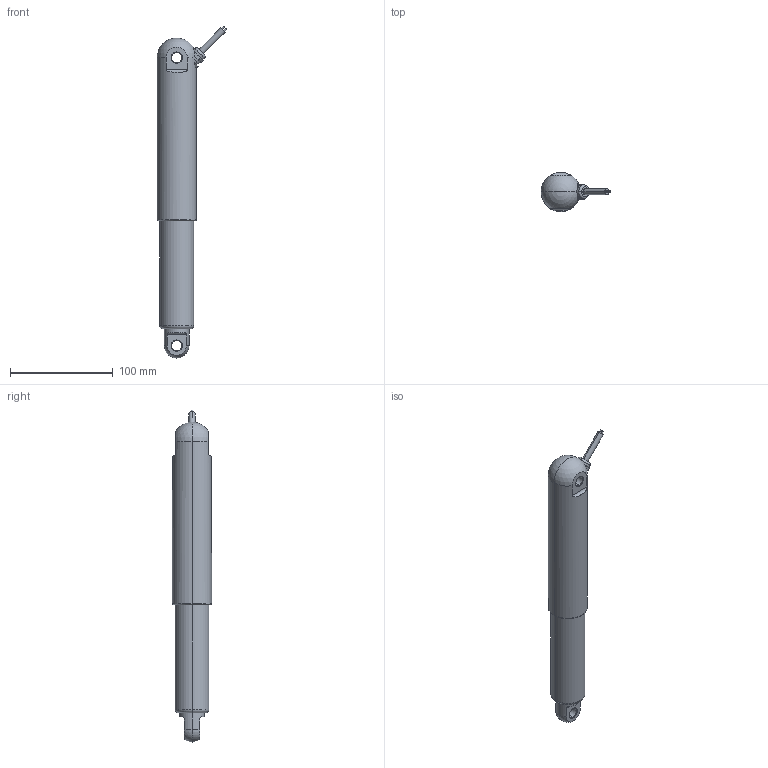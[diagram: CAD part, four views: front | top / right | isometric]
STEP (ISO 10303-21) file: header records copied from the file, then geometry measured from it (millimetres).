
FILE_DESCRIPTION((''),'2;1');
FILE_NAME('ST38-50MM-230','2016-12-15T',('Aklek'),(''),'PRO/ENGINEER BY PARAMETRIC TECHNOLOGY CORPORATION, 2010100','PRO/ENGINEER BY PARAMETRIC TECHNOLOGY CORPORATION, 2010100','');
FILE_SCHEMA(('CONFIG_CONTROL_DESIGN'));
Length unit declared in the file: millimetre
Products named in the file (1): ST38-50MM-230
Bounding box: 67.76 x 38 x 322.76 mm (x, y, z)
Volume: 287640.6 mm3; surface area: 37902.6 mm2
Topology: 1 solids, 2 shells, 92 faces, 223 edges, 141 vertices
Faces by surface type: cylinder 41, plane 33, cone 8, torus 6, sphere 4
Entity records: 2822 total; most frequent: CARTESIAN_POINT 566, DIRECTION 498, ORIENTED_EDGE 438, EDGE_CURVE 219, AXIS2_PLACEMENT_3D 201, VERTEX_POINT 141, CIRCLE 109, EDGE_LOOP 106
